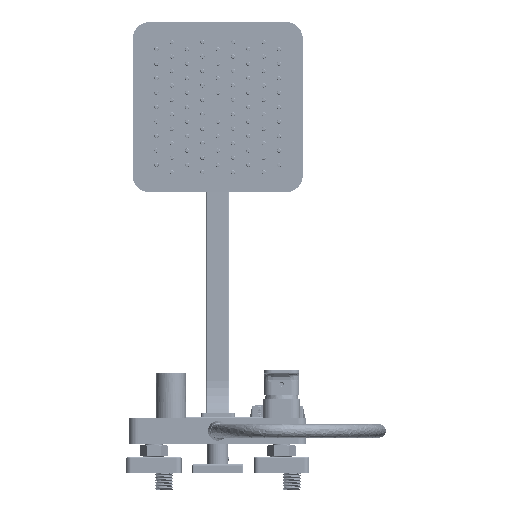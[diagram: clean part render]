
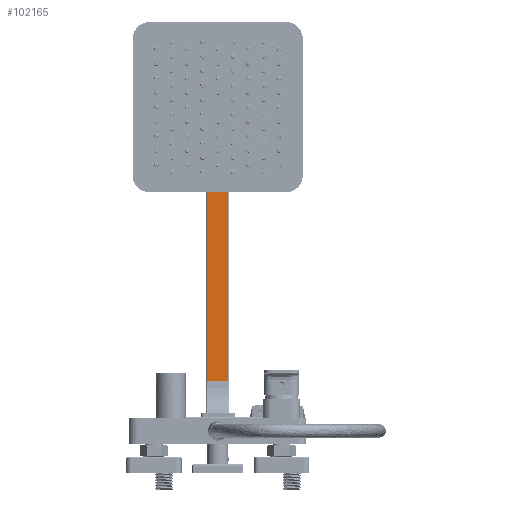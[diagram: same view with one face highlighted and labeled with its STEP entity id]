
A CAD part, front view. The second image highlights one B-rep face of the part: STEP entity #102165.
In plain terms, the highlighted planar face has unit normal (0, -1, 0.017).
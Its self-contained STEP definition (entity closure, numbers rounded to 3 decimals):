
#5877=FACE_BOUND('',#31277,.T.);
#11342=LINE('',#187424,#17392);
#11347=LINE('',#187439,#17397);
#11349=LINE('',#187447,#17399);
#11351=LINE('',#187453,#17401);
#17392=VECTOR('',#126551,356.063);
#17397=VECTOR('',#126566,25.);
#17399=VECTOR('',#126578,25.);
#17401=VECTOR('',#126588,356.063);
#22752=PLANE('',#109266);
#24985=FACE_OUTER_BOUND('',#31276,.T.);
#31276=EDGE_LOOP('',(#73373,#73374,#73375,#73376));
#31277=EDGE_LOOP('',(#73377,#73378));
#38005=CIRCLE('',#109209,10.);
#38034=CIRCLE('',#109267,10.);
#44061=VERTEX_POINT('',#187289);
#44066=VERTEX_POINT('',#187299);
#44107=VERTEX_POINT('',#187420);
#44108=VERTEX_POINT('',#187422);
#44113=VERTEX_POINT('',#187438);
#44114=VERTEX_POINT('',#187445);
#54174=EDGE_CURVE('',#44061,#44066,#38005,.T.);
#54235=EDGE_CURVE('',#44107,#44108,#11342,.T.);
#54242=EDGE_CURVE('',#44113,#44107,#11347,.T.);
#54247=EDGE_CURVE('',#44114,#44108,#11349,.T.);
#54250=EDGE_CURVE('',#44114,#44113,#11351,.T.);
#54251=EDGE_CURVE('',#44066,#44061,#38034,.T.);
#73373=ORIENTED_EDGE('',*,*,#54242,.T.);
#73374=ORIENTED_EDGE('',*,*,#54235,.T.);
#73375=ORIENTED_EDGE('',*,*,#54247,.F.);
#73376=ORIENTED_EDGE('',*,*,#54250,.T.);
#73377=ORIENTED_EDGE('',*,*,#54174,.T.);
#73378=ORIENTED_EDGE('',*,*,#54251,.T.);
#102165=ADVANCED_FACE('',(#24985,#5877),#22752,.T.);
#109209=AXIS2_PLACEMENT_3D('',#187301,#126427,#126428);
#109266=AXIS2_PLACEMENT_3D('',#187454,#126589,#126590);
#109267=AXIS2_PLACEMENT_3D('',#187455,#126591,#126592);
#126427=DIRECTION('center_axis',(0.,1.,-0.017));
#126428=DIRECTION('ref_axis',(0.,0.017,1.));
#126551=DIRECTION('',(0.,-0.017,-1.));
#126566=DIRECTION('',(-1.,0.,0.));
#126578=DIRECTION('',(-1.,0.,0.));
#126588=DIRECTION('',(0.,0.017,1.));
#126589=DIRECTION('center_axis',(0.,-1.,0.017));
#126590=DIRECTION('ref_axis',(0.,-0.017,-1.));
#126591=DIRECTION('center_axis',(0.,1.,-0.017));
#126592=DIRECTION('ref_axis',(0.,0.017,1.));
#187289=CARTESIAN_POINT('',(0.,1321.242,370.125));
#187299=CARTESIAN_POINT('',(0.842,1321.242,370.16));
#187301=CARTESIAN_POINT('Origin',(0.,1321.41,380.123));
#187420=CARTESIAN_POINT('',(-12.5,1322.001,415.118));
#187422=CARTESIAN_POINT('',(-12.5,1315.992,59.106));
#187424=CARTESIAN_POINT('',(-12.5,1322.001,415.118));
#187438=CARTESIAN_POINT('',(12.5,1322.001,415.118));
#187439=CARTESIAN_POINT('',(12.5,1322.001,415.118));
#187445=CARTESIAN_POINT('',(12.5,1315.992,59.106));
#187447=CARTESIAN_POINT('',(12.5,1315.992,59.106));
#187453=CARTESIAN_POINT('',(12.5,1315.992,59.106));
#187454=CARTESIAN_POINT('Origin',(0.,1322.121,422.238));
#187455=CARTESIAN_POINT('Origin',(0.,1321.41,380.123));
